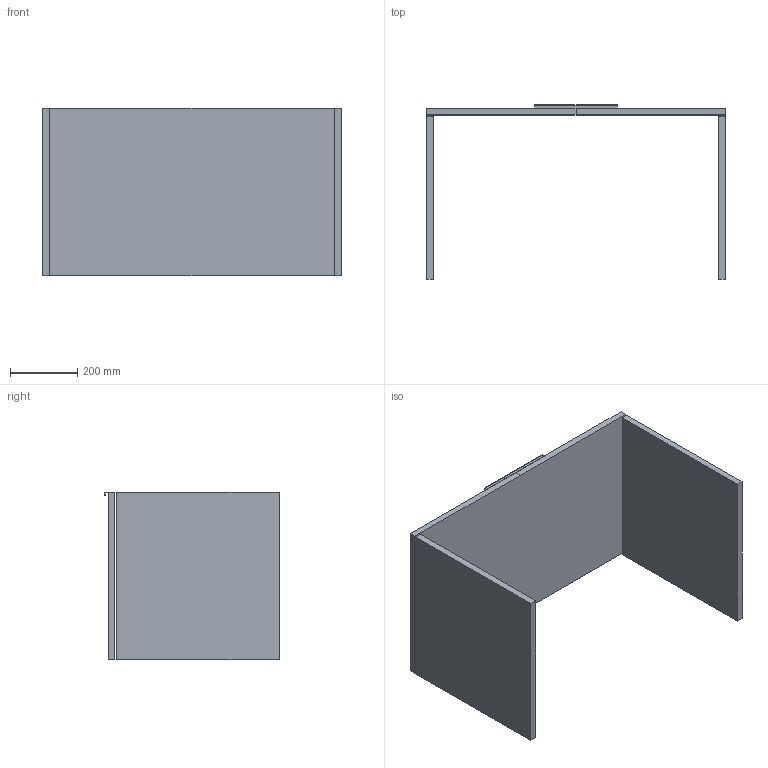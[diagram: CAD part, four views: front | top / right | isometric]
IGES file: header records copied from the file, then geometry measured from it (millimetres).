
Start section: START RECORD GO HERE.
Global section: file name: 5476.igs; native system: DASSAULT SYSTEMES CATIA V5 R19 - www.3ds.com; preprocessor: CATIA Version 5 Release 19 SP 5 ; author: gioge; organization: LAPTOP-G94B6G74; date: 20201003.150610; units: millimetre
Bounding box: 890 x 520 x 500 mm (x, y, z)
Surface area: 2004272 mm2 (no closed solid volume)
Topology: 0 solids, 0 shells, 28 faces, 120 edges, 120 vertices
Faces by surface type: plane 28
